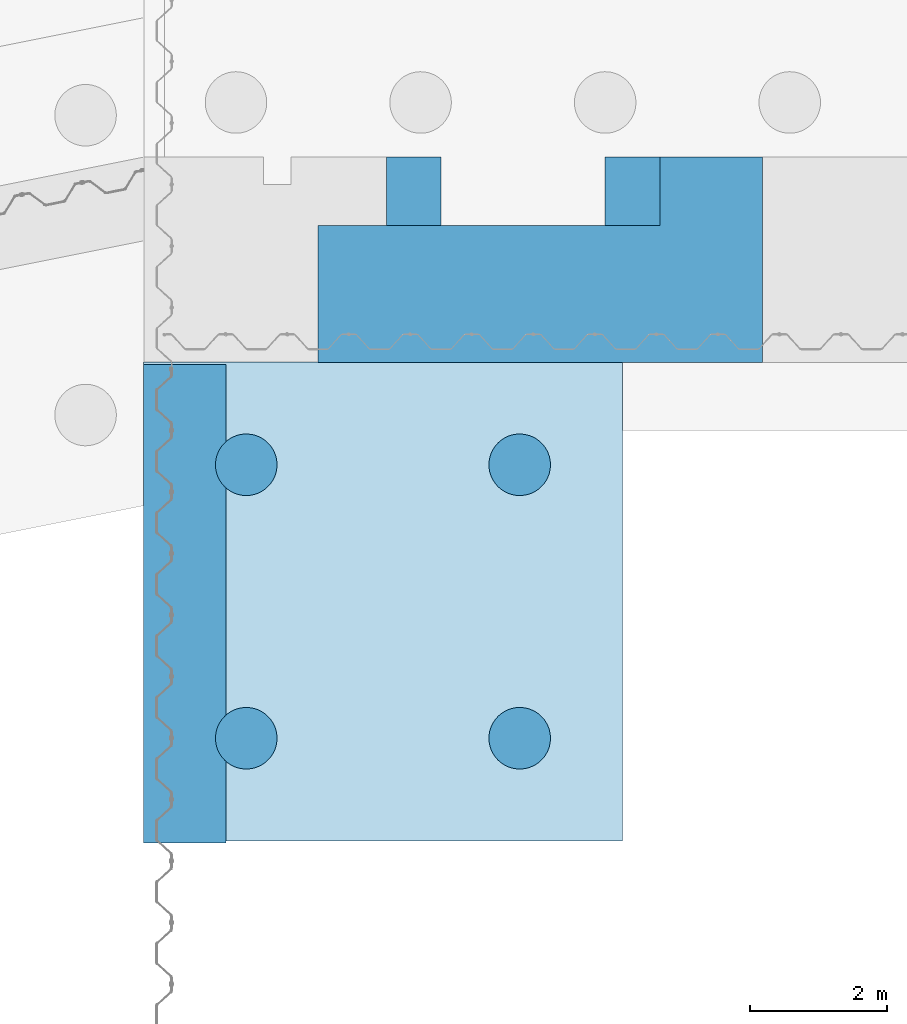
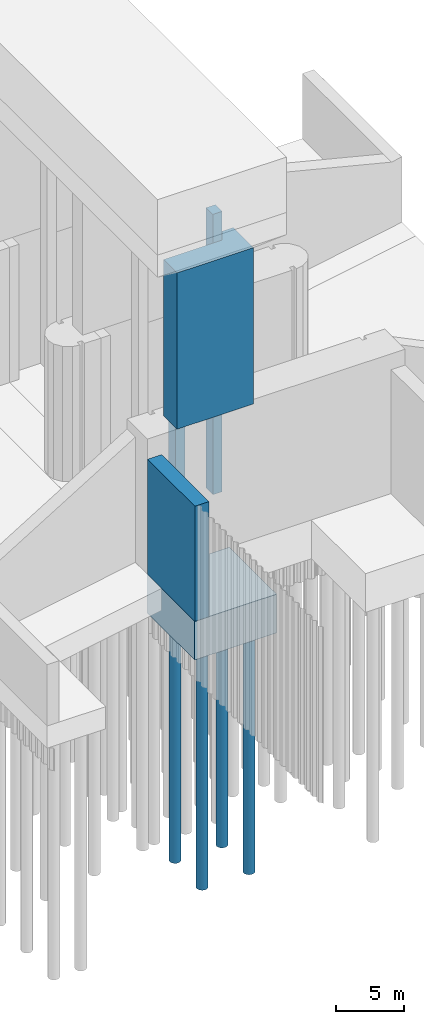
# One storey, part 2 of 9: 5 slabs.
"""IFC2X3 building model written with IfcOpenShell, lengths in millimetres."""

from ifc_helpers import new_model, entity, si_unit, converted_unit, derived_unit, direction, frame, frame_2d, origin, origin_2d_with_axis, place, context, subcontext, project, spatial, polyline, rectangle, circle, outline, extrude, material, type_object, element, save


model = new_model("IFC2X3")

# Units and contexts
model_context = context("Model", 3, precision=0.01, world=origin(), true_north=direction((6.12303176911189e-17, 1.0)))
body_context = subcontext(model_context, "Body", "Model", "MODEL_VIEW")
ifc_project = project(units=[si_unit("LENGTHUNIT", "METRE", prefix="MILLI"), si_unit("AREAUNIT", "SQUARE_METRE"), si_unit("VOLUMEUNIT", "CUBIC_METRE"), converted_unit("PLANEANGLEUNIT", "DEGREE", entity("IfcRatioMeasure", 0.0174532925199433), si_unit("PLANEANGLEUNIT", "RADIAN"), dimensions=[0, 0, 0, 0, 0, 0, 0]), si_unit("MASSUNIT", "GRAM", prefix="KILO"), derived_unit("MASSDENSITYUNIT", [(si_unit("MASSUNIT", "GRAM", prefix="KILO"), 1), (si_unit("LENGTHUNIT", "METRE"), -3)]), si_unit("TIMEUNIT", "SECOND"), si_unit("FREQUENCYUNIT", "HERTZ"), si_unit("THERMODYNAMICTEMPERATUREUNIT", "DEGREE_CELSIUS"), derived_unit("THERMALTRANSMITTANCEUNIT", [(si_unit("MASSUNIT", "GRAM", prefix="KILO"), 1), (si_unit("THERMODYNAMICTEMPERATUREUNIT", "KELVIN"), -1), (si_unit("TIMEUNIT", "SECOND"), -3)]), derived_unit("VOLUMETRICFLOWRATEUNIT", [(si_unit("LENGTHUNIT", "METRE"), 3), (si_unit("TIMEUNIT", "SECOND"), -1)]), si_unit("ELECTRICCURRENTUNIT", "AMPERE"), si_unit("ELECTRICVOLTAGEUNIT", "VOLT"), si_unit("POWERUNIT", "WATT"), si_unit("FORCEUNIT", "NEWTON", prefix="KILO"), si_unit("ILLUMINANCEUNIT", "LUX"), si_unit("LUMINOUSFLUXUNIT", "LUMEN"), si_unit("LUMINOUSINTENSITYUNIT", "CANDELA"), derived_unit("USERDEFINED", [(si_unit("MASSUNIT", "GRAM", prefix="KILO"), -1), (si_unit("LENGTHUNIT", "METRE"), -2), (si_unit("TIMEUNIT", "SECOND"), 3), (si_unit("LUMINOUSFLUXUNIT", "LUMEN"), 1)]), derived_unit("LINEARVELOCITYUNIT", [(si_unit("LENGTHUNIT", "METRE"), 1), (si_unit("TIMEUNIT", "SECOND"), -1)]), si_unit("PRESSUREUNIT", "PASCAL"), derived_unit("USERDEFINED", [(si_unit("LENGTHUNIT", "METRE"), -2), (si_unit("MASSUNIT", "GRAM", prefix="KILO"), 1), (si_unit("TIMEUNIT", "SECOND"), -2)])], contexts=[model_context])

# Site, building, storey
site_placement = place(None, origin())
site = spatial("IfcSite", under=ifc_project, at=site_placement, Name="Default", CompositionType="ELEMENT")
building_placement = place(site_placement, origin())
building = spatial("IfcBuilding", under=site, at=building_placement, CompositionType="ELEMENT")
storey_placement = place(building_placement, origin())
storey = spatial("IfcBuildingStorey", under=building, at=storey_placement, Name="設計GL", CompositionType="ELEMENT", Elevation=0.0)

# Slabs
ifc_material_1 = material(Name="コンクリート - 現場打ちコンクリート")
slab_type_1 = type_object("IfcSlabType", Name="40101_Co_川表胸壁(下流)底版", PredefinedType="FLOOR", material=ifc_material_1)
slab_1_placement = place(storey_placement, origin())
element("IfcSlab", 1, at=slab_1_placement, inside=storey, type_object=slab_type_1, Name="40101_Co_川表胸壁(下流)底版:40101_Co_川表胸壁(下流)底版", ObjectType="40101_Co_川表胸壁(下流)底版:40101_Co_川表胸壁(下流)底版", PredefinedType="FLOOR", context=body_context, shape_type="SweptSolid", body=[
    extrude(rectangle(XDim=7000.01452726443, YDim=7000.52511571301, at=frame_2d((4.32009983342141e-12, -4.32009983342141e-12), x_axis=(1.0, 0.0))), frame((-49611.3572482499, -79792.1316628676, 710.0), z_axis=(0.0, 0.0, 1.0), x_axis=(0.0, -1.0, 0.0)), (0.0, 0.0, 1.0), 3500.0),
])
slab_type_2 = type_object("IfcSlabType", Name="41401_Co_川表胸壁(下流)側壁", PredefinedType="FLOOR", material=ifc_material_1)
slab_2_placement = place(storey_placement, origin())
element("IfcSlab", 2, at=slab_2_placement, inside=storey, type_object=slab_type_2, Name="41401_Co_川表胸壁(下流)側壁:41401_Co_川表胸壁(下流)側壁", ObjectType="41401_Co_川表胸壁(下流)側壁:41401_Co_川表胸壁(下流)側壁", PredefinedType="FLOOR", context=body_context, shape_type="SweptSolid", body=[
    extrude(rectangle(XDim=7000.00000000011, YDim=1200.0, at=origin_2d_with_axis()), frame((-52511.61907773, -79822.2934845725, 4210.0), z_axis=(0.0, 0.0, 1.0), x_axis=(0.0, -1.0, 0.0)), (0.0, 0.0, 1.0), 10400.0),
])
slab_type_3 = type_object("IfcSlabType", Name="51101_2次Co_端堰柱(下流)", PredefinedType="FLOOR", material=ifc_material_1)
slab_3_placement = place(storey_placement, origin())
element("IfcSlab", 3, at=slab_3_placement, inside=storey, type_object=slab_type_3, Name="51101_2次Co_端堰柱(下流):51101_2次Co_端堰柱(下流)", ObjectType="51101_2次Co_端堰柱(下流):51101_2次Co_端堰柱(下流)", PredefinedType="FLOOR", context=body_context, shape_type="SweptSolid", body=[
    extrude(rectangle(XDim=999.999999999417, YDim=800.0, at=frame_2d((3.46460637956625e-11, -4.34852154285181e-12), x_axis=(1.0, 0.0))), frame((-49161.6198031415, -73792.124399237, 7810.0), z_axis=(0.0, 0.0, 1.0), x_axis=(0.0, -1.0, 0.0)), (0.0, 0.0, 1.0), 12200.0),
    extrude(rectangle(XDim=999.999999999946, YDim=800.0, at=frame_2d((3.03259639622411e-11, -4.34852154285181e-12), x_axis=(1.0, 0.0))), frame((-45961.6198031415, -73792.1243992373, 7810.0), z_axis=(0.0, 0.0, 1.0), x_axis=(0.0, -1.0, 0.0)), (0.0, 0.0, 1.0), 25310.0),
])
slab_type_4 = type_object("IfcSlabType", Name="42201_Co_端門柱(下流)", PredefinedType="FLOOR", material=ifc_material_1)
slab_4_placement = place(storey_placement, origin())
element("IfcSlab", 4, at=slab_4_placement, inside=storey, type_object=slab_type_4, Name="42201_Co_端門柱(下流):42201_Co_端門柱(下流)", ObjectType="42201_Co_端門柱(下流):42201_Co_端門柱(下流)", PredefinedType="FLOOR", context=body_context, shape_type="SweptSolid", body=[
    extrude(outline(polyline([(-1666.66666666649, -2666.6666646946), (1333.33333333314, -2666.6666646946), (1333.33333333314, -1166.66666765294), (333.333333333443, -1166.66666765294), (333.333333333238, 3833.33333234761), (-1666.66666666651, 3833.33333234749), (-1666.66666666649, -2666.6666646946)])), frame((-46727.9303527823, -74625.6412648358, 16410.0), z_axis=(0.0, 0.0, 1.0), x_axis=(0.0, 1.0, 0.0)), (0.0, 0.0, 1.0), 14109.9999999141),
])
ifc_material_2 = material(Name="ベタ基礎")
slab_type_5 = type_object("IfcSlabType", Name="70101.dwg", PredefinedType="FLOOR", material=ifc_material_2)
slab_5_placement = place(storey_placement, origin())
element("IfcSlab", 5, at=slab_5_placement, inside=storey, type_object=slab_type_5, Name="70101.dwg:70101.dwg", ObjectType="70101.dwg:70101.dwg", PredefinedType="FLOOR", context=body_context, shape_type="SweptSolid", body=[
    extrude(circle(Radius=449.999999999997, at=origin_2d_with_axis()), frame((-51612.3912254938, -81792.064858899, -21190.0)), (0.0, 0.0, 1.0), 21900.0),
    extrude(circle(Radius=449.999999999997, at=origin_2d_with_axis()), frame((-47612.3912258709, -81792.0099277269, -21190.0)), (0.0, 0.0, 1.0), 21900.0),
    extrude(circle(Radius=449.999999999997, at=origin_2d_with_axis()), frame((-51612.4461566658, -77792.0648592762, -21190.0)), (0.0, 0.0, 1.0), 21900.0),
    extrude(circle(Radius=449.999999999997, at=origin_2d_with_axis()), frame((-47612.446157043, -77792.0099281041, -21190.0)), (0.0, 0.0, 1.0), 21900.0),
])

save(model, "model.ifc")
